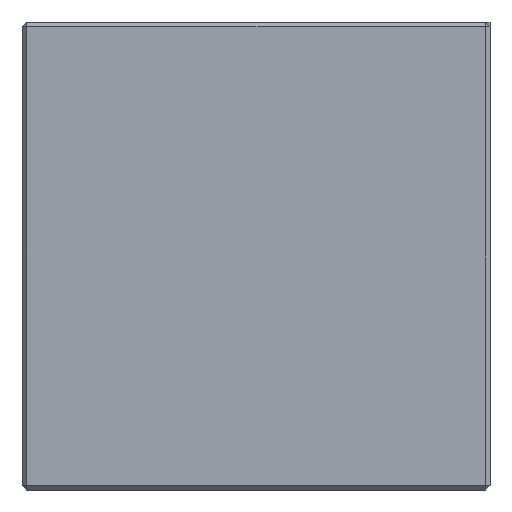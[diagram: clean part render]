
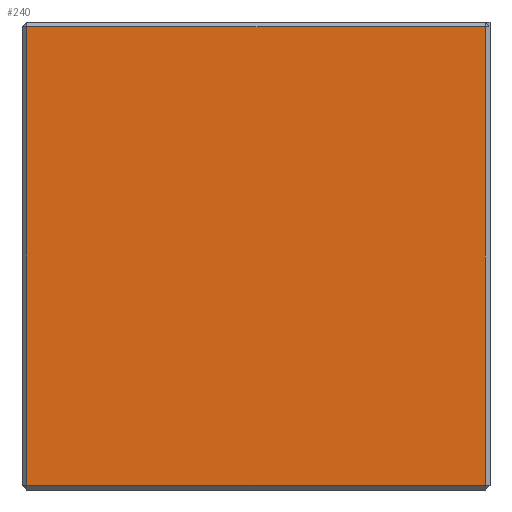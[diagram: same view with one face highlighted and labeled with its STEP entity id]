
A CAD part, left-side view. The second image highlights one B-rep face of the part: STEP entity #240.
In plain terms, the highlighted planar face has unit normal (-1, 0, 0).
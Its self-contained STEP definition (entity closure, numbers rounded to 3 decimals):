
#20 = CARTESIAN_POINT ( 'NONE',  ( -7.5, -14.7, -14.7 ) ) ;
#31 = CARTESIAN_POINT ( 'NONE',  ( -7.5, -14.7, 14.7 ) ) ;
#33 = CARTESIAN_POINT ( 'NONE',  ( -7.5, 14.7, -14.7 ) ) ;
#56 = CARTESIAN_POINT ( 'NONE',  ( -7.5, 14.7, 14.7 ) ) ;
#87 = AXIS2_PLACEMENT_3D ( 'NONE', #417, #442, #413 ) ;
#226 = EDGE_CURVE ( 'NONE', #959, #924, #607, .T. ) ;
#227 = EDGE_CURVE ( 'NONE', #924, #803, #609, .T. ) ;
#228 = EDGE_CURVE ( 'NONE', #803, #822, #599, .T. ) ;
#229 = EDGE_CURVE ( 'NONE', #822, #959, #603, .T. ) ;
#240 = ADVANCED_FACE ( 'NONE', ( #583 ), #436, .F. ) ;
#413 = DIRECTION ( 'NONE',  ( 0., 0., -1. ) ) ;
#417 = CARTESIAN_POINT ( 'NONE',  ( -7.5, 0., 0. ) ) ;
#436 = PLANE ( 'NONE',  #87 ) ;
#442 = DIRECTION ( 'NONE',  ( 1., 0., 0. ) ) ;
#461 = DIRECTION ( 'NONE',  ( 0., 0., -1. ) ) ;
#462 = CARTESIAN_POINT ( 'NONE',  ( -7.5, -15., -14.7 ) ) ;
#464 = DIRECTION ( 'NONE',  ( 0., -1., 0. ) ) ;
#468 = CARTESIAN_POINT ( 'NONE',  ( -7.5, 15., 14.7 ) ) ;
#490 = CARTESIAN_POINT ( 'NONE',  ( -7.5, -14.7, 15. ) ) ;
#493 = DIRECTION ( 'NONE',  ( 0., 0., 1. ) ) ;
#496 = DIRECTION ( 'NONE',  ( 0., 1., 0. ) ) ;
#498 = CARTESIAN_POINT ( 'NONE',  ( -7.5, 14.7, -15. ) ) ;
#523 = EDGE_LOOP ( 'NONE', ( #773, #772, #743, #848 ) ) ;
#581 = VECTOR ( 'NONE', #461, 1000. ) ;
#582 = VECTOR ( 'NONE', #493, 1000. ) ;
#583 = FACE_OUTER_BOUND ( 'NONE', #523, .T. ) ;
#599 = LINE ( 'NONE', #498, #581 ) ;
#603 = LINE ( 'NONE', #462, #616 ) ;
#607 = LINE ( 'NONE', #490, #582 ) ;
#609 = LINE ( 'NONE', #468, #613 ) ;
#613 = VECTOR ( 'NONE', #496, 1000. ) ;
#616 = VECTOR ( 'NONE', #464, 1000. ) ;
#743 = ORIENTED_EDGE ( 'NONE', *, *, #228, .T. ) ;
#772 = ORIENTED_EDGE ( 'NONE', *, *, #227, .T. ) ;
#773 = ORIENTED_EDGE ( 'NONE', *, *, #226, .T. ) ;
#803 = VERTEX_POINT ( 'NONE', #56 ) ;
#822 = VERTEX_POINT ( 'NONE', #33 ) ;
#848 = ORIENTED_EDGE ( 'NONE', *, *, #229, .T. ) ;
#924 = VERTEX_POINT ( 'NONE', #31 ) ;
#959 = VERTEX_POINT ( 'NONE', #20 ) ;
